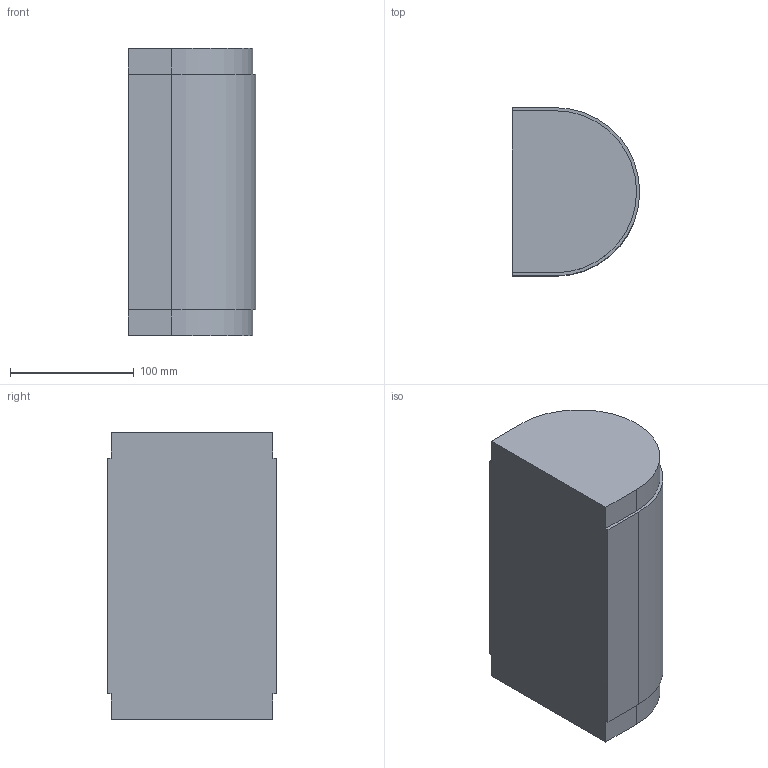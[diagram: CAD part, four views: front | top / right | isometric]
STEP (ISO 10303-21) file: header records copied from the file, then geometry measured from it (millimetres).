
FILE_DESCRIPTION (( 'STEP AP214' ), '1' );
FILE_NAME ('02.150I01.230.N FS-MTC-150 Omloop.STEP', '2013-03-29T11:01:12', ( 'Gebruiker' ), ( '' ), 'SwSTEP 2.0', 'SolidWorks 2012', '' );
FILE_SCHEMA (( 'AUTOMOTIVE_DESIGN' ));
Length unit declared in the file: millimetre
Products named in the file (1): 02.150I01.230.N FS-MTC-150 Omloop
Bounding box: 103 x 136 x 232.5 mm (x, y, z)
Volume: 2766063.1 mm3; surface area: 121070.4 mm2
Topology: 1 solids, 1 shells, 14 faces, 36 edges, 24 vertices
Faces by surface type: plane 11, cylinder 3
Entity records: 460 total; most frequent: CARTESIAN_POINT 75, DIRECTION 72, ORIENTED_EDGE 72, EDGE_CURVE 36, VECTOR 30, LINE 30, VERTEX_POINT 24, AXIS2_PLACEMENT_3D 21
